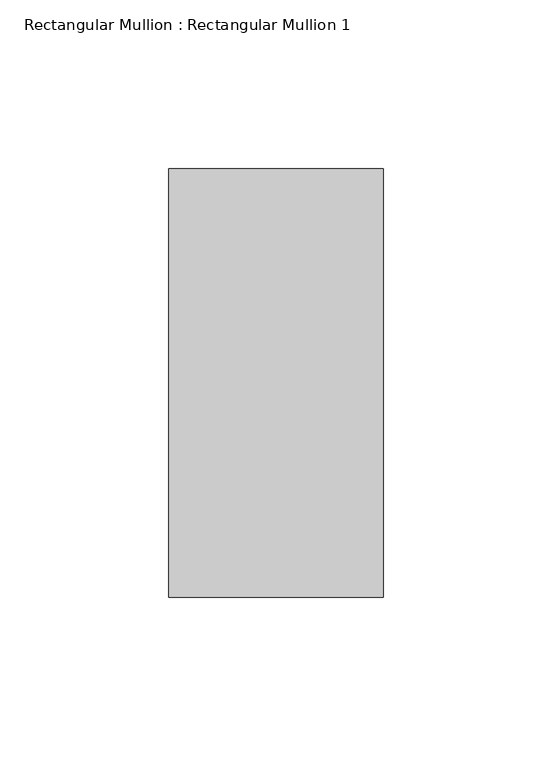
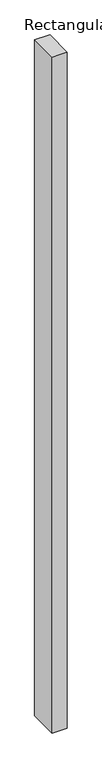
"""IFC4 building model written with IfcOpenShell, lengths in millimetres: member geometry, Rectangular Mullion : Rectangular Mullion 1."""

from ifc_helpers import new_model, si_unit, frame, origin, place, context, project, spatial, polyline, outline, extrude, source, transform, mapped, element, save


def rectangular_mullion_rectangular_mullion_1_f7e226ab(model_context):
    return source(origin(), model_context, "Body", "SweptSolid", [
        extrude(outline(polyline([(31.75, 63.5), (31.75, -63.5), (-31.75, -63.5), (-31.75, 63.5), (31.75, 63.5)])), frame((0.0, 0.0, -3000.0), z_axis=(0.0, 0.0, 1.0), x_axis=(1.0, 0.0, 0.0)), (0.0, 0.0, 1.0), 3000.0),
    ])


if __name__ == "__main__":
    model = new_model("IFC4")
    model_context = context("Model", 3, world=origin())
    ifc_project = project(units=[si_unit("LENGTHUNIT", "METRE", prefix="MILLI")], contexts=[model_context])
    site = spatial("IfcSite", under=ifc_project)
    building = spatial("IfcBuilding", under=site)
    placement = place(None, origin())
    rectangular_mullion_rectangular_mullion_1_shape = rectangular_mullion_rectangular_mullion_1_f7e226ab(model_context)
    element("IfcMember", 1, ObjectType="Rectangular Mullion : Rectangular Mullion 1", at=placement, inside=building, context=model_context, shape_type="MappedRepresentation", body=[
        mapped(rectangular_mullion_rectangular_mullion_1_shape, transform((0.0, 0.0, 0.0), x_axis=(1.0, 0.0, 0.0), y_axis=(0.0, 1.0, 0.0), z_axis=(0.0, 0.0, 1.0))),
    ])
    save(model, "model.ifc")
